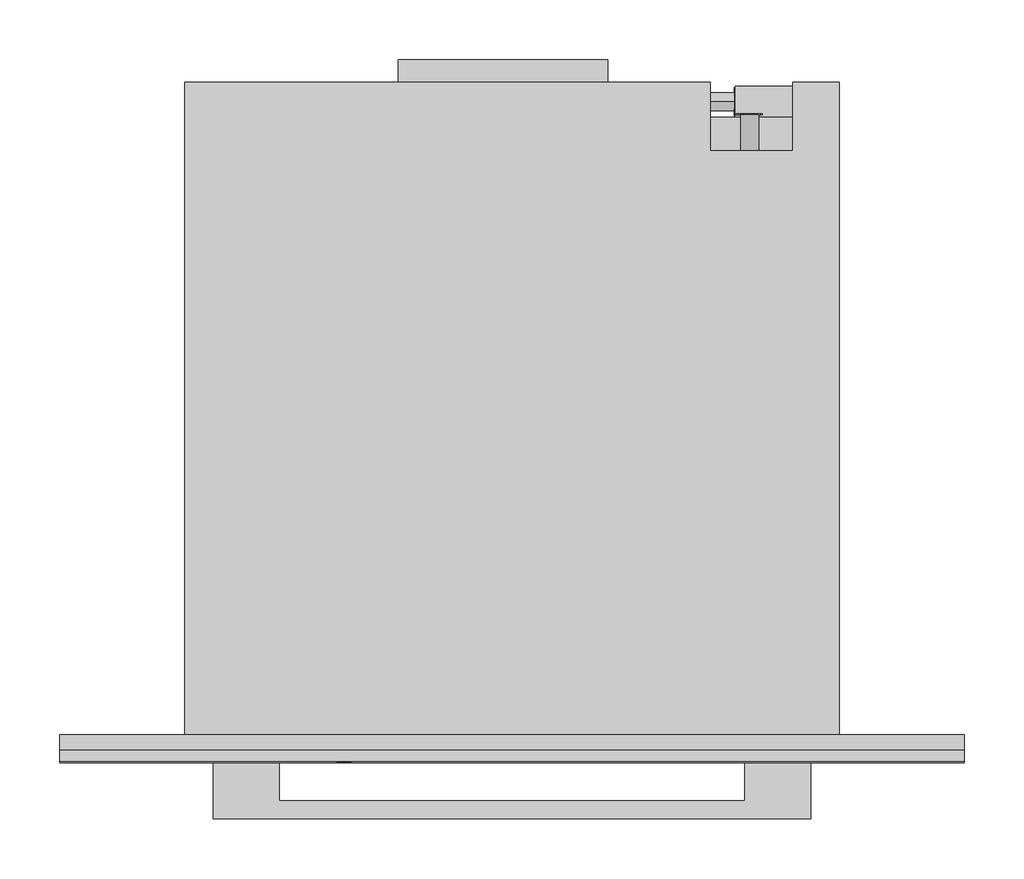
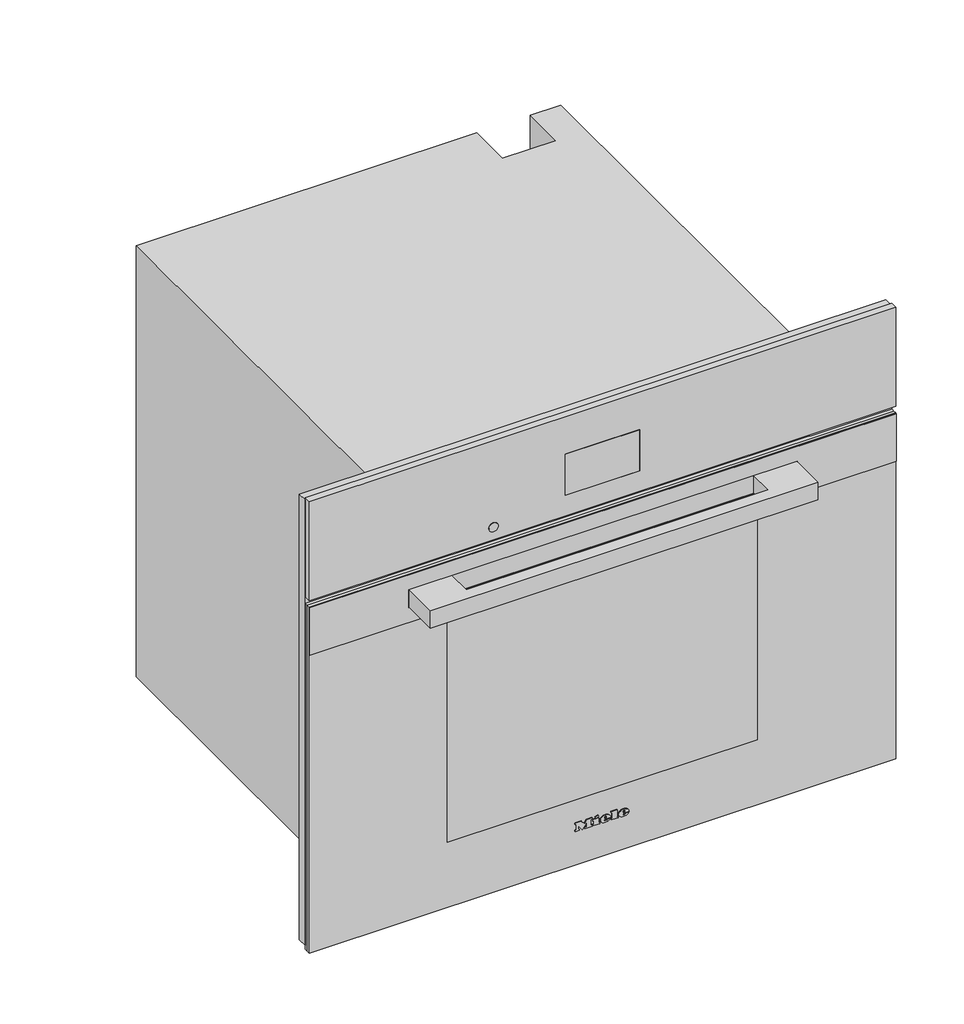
# Not in any storey: 1 proxy.
"""IFC4 building model written with IfcOpenShell, lengths in millimetres."""

from ifc_helpers import new_model, si_unit, origin, place, context, project, spatial, transform, mapped, element, save
from components import specialty_equipment_a1b92951

model = new_model("IFC4")

# Units and contexts
model_context = context("Model", 3, world=origin())
ifc_project = project(units=[si_unit("LENGTHUNIT", "METRE", prefix="MILLI")], contexts=[model_context])

# Site, building
site = spatial("IfcSite", under=ifc_project)
building = spatial("IfcBuilding", under=site)

# Proxy
placement = place(None, origin())
specialty_equipment_shape = specialty_equipment_a1b92951(model_context)
element("IfcBuildingElementProxy", 1, Name="11876450_USA_DGC7685_EDST-CLST : 23768543_USA_11876450_DGC7685_EDST-CLST", ObjectType="11876450_USA_DGC7685_EDST-CLST : 23768543_USA_11876450_DGC7685_EDST-CLST", at=placement, inside=building, context=model_context, shape_type="MappedRepresentation", body=[
    mapped(specialty_equipment_shape, transform((0.0, 0.0, 0.0), x_axis=(1.0, 0.0, 0.0), y_axis=(0.0, 1.0, 0.0), z_axis=(0.0, 0.0, 1.0))),
])

save(model, "model.ifc")
